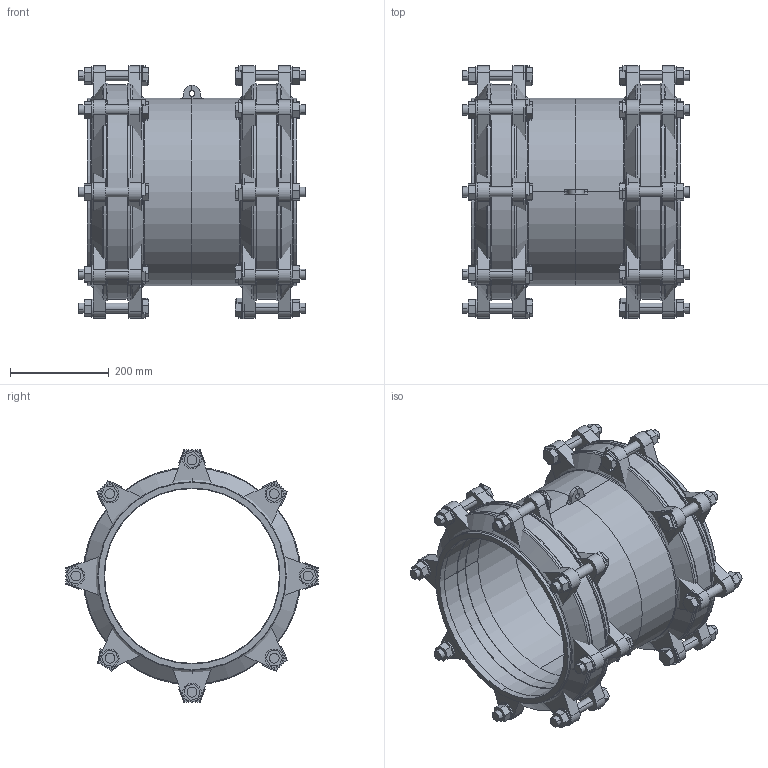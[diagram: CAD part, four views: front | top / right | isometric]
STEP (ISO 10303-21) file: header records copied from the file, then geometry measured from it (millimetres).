
FILE_DESCRIPTION(('STEP AP214'),'1');
FILE_NAME('MJ000067 DN 300.STP','2015-02-06T12:36:12',(' '),(' '),'Spatial InterOp 3D',' ',' ');
FILE_SCHEMA(('automotive_design'));
Length unit declared in the file: millimetre
Products named in the file (76): 3D-Objekt
Bounding box: 460 x 513.78 x 513.78 mm (x, y, z)
Volume: 12461492.3 mm3; surface area: 2652741.6 mm2
Topology: 76 solids, 76 shells, 976 faces, 2276 edges, 1516 vertices
Faces by surface type: plane 704, cylinder 232, torus 24, cone 16
Entity records: 37370 total; most frequent: DIRECTION 4944, CARTESIAN_POINT 4844, ORIENTED_EDGE 4552, EDGE_CURVE 2276, LINE 1712, VECTOR 1712, AXIS2_PLACEMENT_3D 1616, VERTEX_POINT 1516
